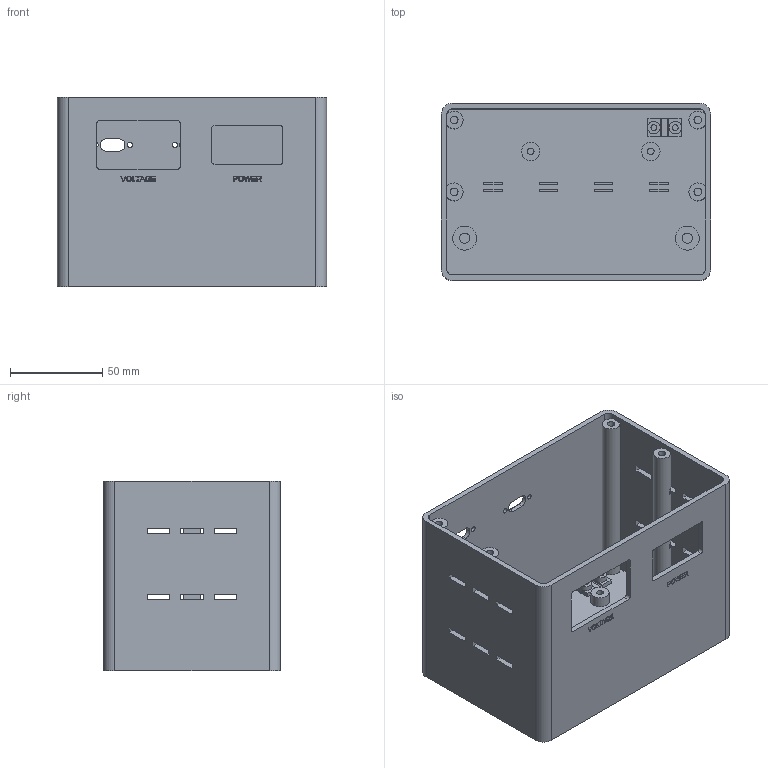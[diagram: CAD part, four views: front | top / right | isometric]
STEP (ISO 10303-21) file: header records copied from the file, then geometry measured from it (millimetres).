
FILE_DESCRIPTION(('Open CASCADE Model'),'2;1');
FILE_NAME('Open CASCADE Shape Model','2026-07-23T15:55:56',('Author'),( 'Open CASCADE'),'Open CASCADE STEP processor 7.9','Open CASCADE 7.9' ,'Unknown');
FILE_SCHEMA(('AUTOMOTIVE_DESIGN { 1 0 10303 214 1 1 1 1 }'));
Length unit declared in the file: millimetre
Products named in the file (1): Open CASCADE STEP translator 7.9 1
Bounding box: 146 x 96 x 103 mm (x, y, z)
Volume: 205137.3 mm3; surface area: 129552 mm2
Topology: 1 solids, 1 shells, 778 faces, 2145 edges, 1430 vertices
Faces by surface type: plane 497, extrusion 217, cylinder 64
Full cylindrical faces by diameter (mm): 2.8 x4, 3.1 x2, 3.6 x2, 4.1 x4, 5.5 x2, 6.8 x2, 10 x2, 13 x2
Entity records: 55492 total; most frequent: CARTESIAN_POINT 16161, DIRECTION 5756, ORIENTED_EDGE 4290, PCURVE 4290, DEFINITIONAL_REPRESENTATION 4290, VECTOR 4249, LINE 4032, B_SPLINE_CURVE_WITH_KNOTS 2324
